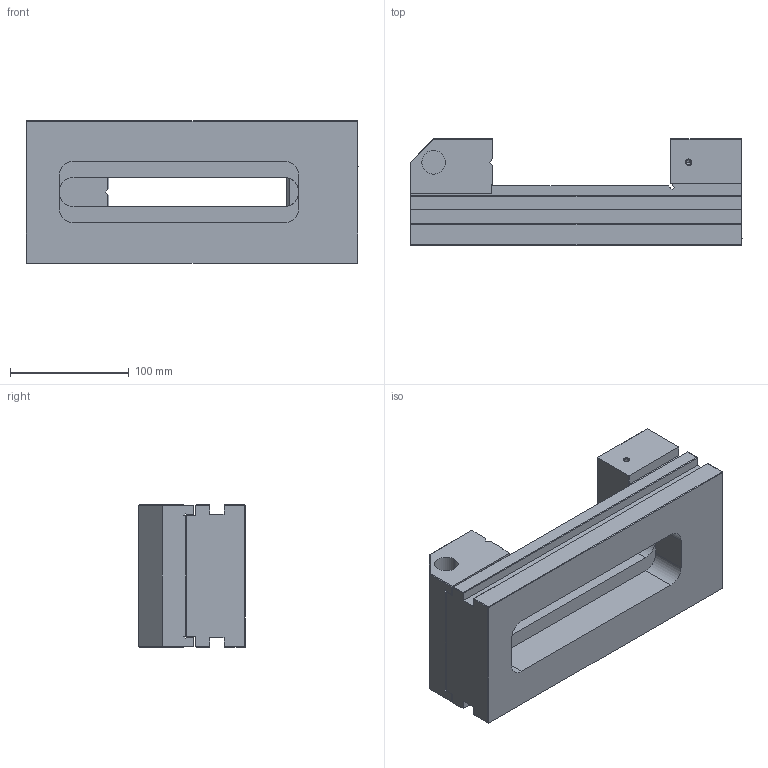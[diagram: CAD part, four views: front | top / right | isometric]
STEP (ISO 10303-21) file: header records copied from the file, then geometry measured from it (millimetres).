
FILE_DESCRIPTION (( 'STEP AP214' ), '1' );
FILE_NAME ('3311 120mm TOOLMAKER VISE.STEP', '2016-05-31T19:53:11', ( '' ), ( '' ), 'SwSTEP 2.0', 'SolidWorks 2014', '' );
FILE_SCHEMA (( 'AUTOMOTIVE_DESIGN' ));
Length unit declared in the file: millimetre
Products named in the file (1): 3311 120mm TOOLMAKER VISE
Bounding box: 280 x 90 x 120 mm (x, y, z)
Volume: 1767285.8 mm3; surface area: 180543.7 mm2
Topology: 2 solids, 2 shells, 430 faces, 1124 edges, 725 vertices
Faces by surface type: plane 311, bspline 97, cylinder 14, cone 8
Entity records: 21920 total; most frequent: CARTESIAN_POINT 8607, ORIENTED_EDGE 2240, DIRECTION 1624, EDGE_CURVE 1120, VECTOR 884, LINE 884, VERTEX_POINT 725, EDGE_LOOP 463
